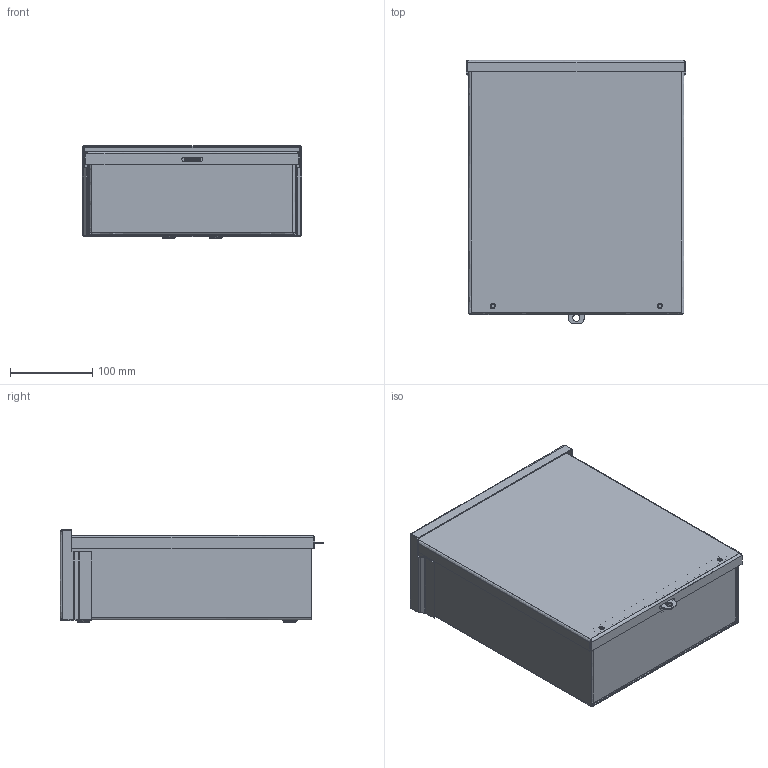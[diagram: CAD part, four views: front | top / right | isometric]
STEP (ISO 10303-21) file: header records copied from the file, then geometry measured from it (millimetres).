
FILE_DESCRIPTION((''),'2;1');
FILE_NAME('D:\scratch\ideas\a12r104nk.stp','2007-01-03T07:40:03',( 'User'),('SDRC'),'I-DEAS Master Series 9','UNIX','Yes');
FILE_SCHEMA(('AUTOMOTIVE_DESIGN { 1 0 10303 214 0 1 1 1 }'));
Length unit declared in the file: inch
Products named in the file (7): 13482; 3rsc_wmt_body_12x10x4_nk; 3rsc_top_10x4; 3rsc_bottom_10x4_nk; 3rsc_body_12x10x4; 3rsc_cover_12x10; 78124001
Assembly tree (6 placements, depth 3):
  13482
    3rsc_wmt_body_12x10x4_nk
      3rsc_top_10x4
      3rsc_bottom_10x4_nk
      3rsc_body_12x10x4
    3rsc_cover_12x10
    78124001
Bounding box: 266.7 x 320.75 x 113.03 mm (x, y, z)
Volume: 437402.7 mm3; surface area: 633182.5 mm2
Topology: 5 solids, 5 shells, 239 faces, 615 edges, 392 vertices
Faces by surface type: bspline 239
Entity records: 7574 total; most frequent: CARTESIAN_POINT 3603, ORIENTED_EDGE 1230, EDGE_CURVE 615, VERTEX_POINT 392, QUASI_UNIFORM_CURVE 308, EDGE_LOOP 273, FACE_OUTER_BOUND 239, ADVANCED_FACE 239
